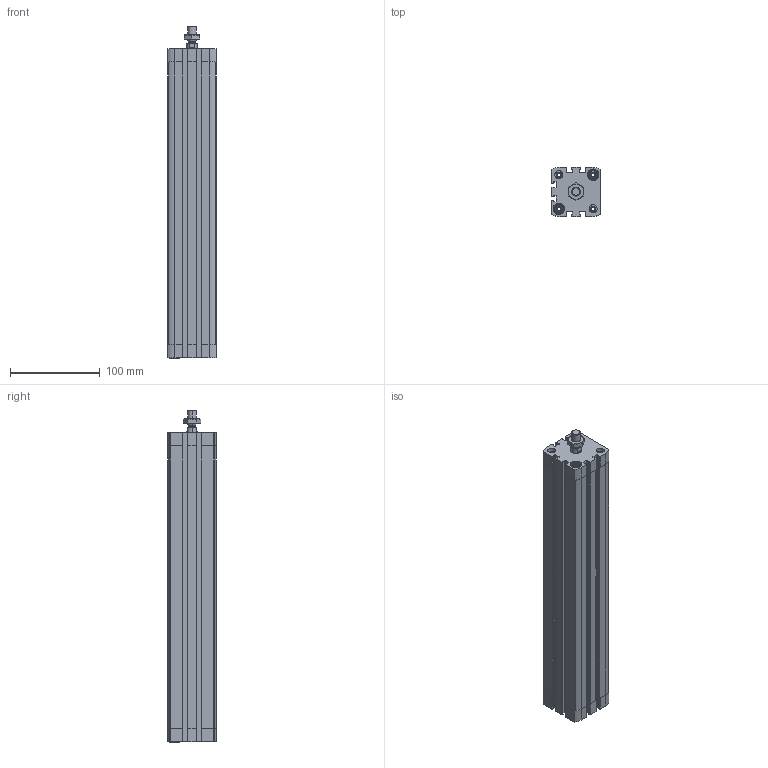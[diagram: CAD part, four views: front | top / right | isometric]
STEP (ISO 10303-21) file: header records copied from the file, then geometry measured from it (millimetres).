
FILE_DESCRIPTION (( 'STEP AP203' ), '1' );
FILE_NAME ('CCN40-300M.STEP', '2017-04-03T15:10:43', ( '' ), ( '' ), 'SwSTEP 2.0', 'SolidWorks 2016', '' );
FILE_SCHEMA (( 'CONFIG_CONTROL_DESIGN' ));
Length unit declared in the file: millimetre
Products named in the file (4): _DIN-439-B - M10x1.25(F); CCN40-300M; CCN-300----(Z); CCN-300_(KS)
Assembly tree (3 placements, depth 2):
  CCN40-300M
    CCN-300----(Z)
    CCN-300_(KS)
    _DIN-439-B - M10x1.25(F)
Bounding box: 54.5 x 54.5 x 370.1 mm (x, y, z)
Volume: 549589.1 mm3; surface area: 190626.6 mm2
Topology: 3 solids, 3 shells, 499 faces, 1334 edges, 872 vertices
Faces by surface type: plane 275, cylinder 172, cone 48, bspline 4
Entity records: 16246 total; most frequent: CARTESIAN_POINT 3119, DIRECTION 2720, ORIENTED_EDGE 2668, EDGE_CURVE 1334, AXIS2_PLACEMENT_3D 997, VERTEX_POINT 872, LINE 726, VECTOR 726
